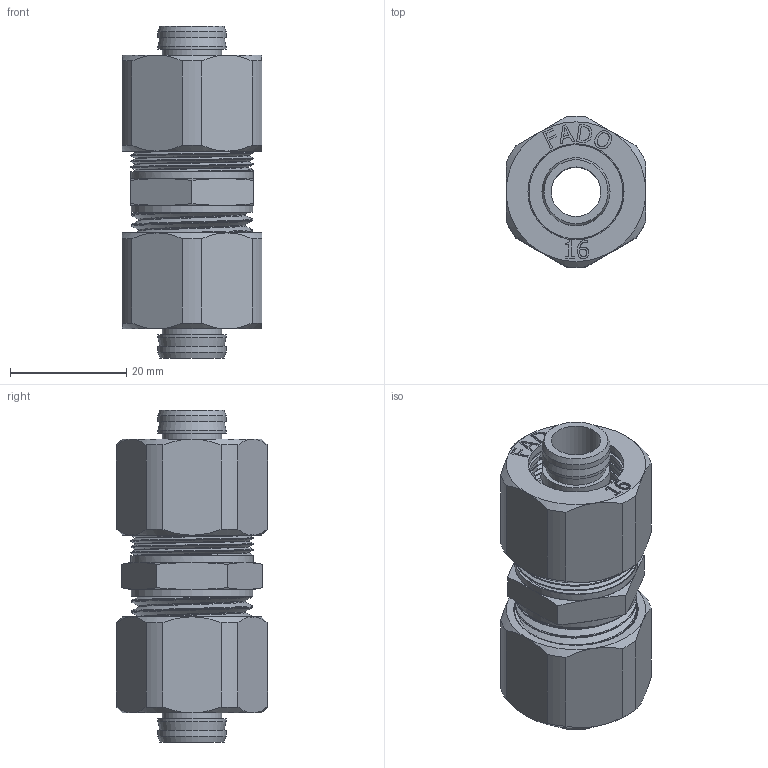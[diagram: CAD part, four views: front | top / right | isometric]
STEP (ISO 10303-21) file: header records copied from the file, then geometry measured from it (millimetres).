
FILE_DESCRIPTION(/* description */ (''),/* implementation_level */ '2;1');
FILE_NAME(/* name */ 'C:\Users\Doom\Desktop\Фадотех\Обжим\RFM21 16x0.5M 30.03.2020\RFM21 16x0.5M 30.03.2020.stp',/* time_stamp */ '2022-06-01T21:51:06+03:00',/* author */ ('Doom'),/* organization */ (''),/* preprocessor_version */ 'ST-DEVELOPER v18',/* originating_system */ 'Autodesk Inventor 2020',/* authorisation */ '');
FILE_SCHEMA (('AUTOMOTIVE_DESIGN { 1 0 10303 214 3 1 1 }'));
Length unit declared in the file: millimetre
Products named in the file (5): RFM21 16x0.5M 30.03.2020; RFM21 16x0.5M 30.03.2020_1; FADO MC Nut-16 15.02.2020; FADO MC Socket-16 15.02.2020; Olive 16 15.02.2020
Assembly tree (7 placements, depth 2):
  RFM21 16x0.5M 30.03.2020
    RFM21 16x0.5M 30.03.2020_1
    FADO MC Nut-16 15.02.2020  x2
    FADO MC Socket-16 15.02.2020  x2
    Olive 16 15.02.2020  x2
Bounding box: 24 x 25.98 x 57.04 mm (x, y, z)
Volume: 13490.3 mm3; surface area: 23385.8 mm2
Topology: 11 solids, 11 shells, 992 faces, 2705 edges, 1814 vertices
Faces by surface type: bspline 492, plane 291, cylinder 149, cone 60
Full cylindrical faces by diameter (mm): 8.5 x2, 10.2 x4, 11.7 x8, 12.6 x2, 14.7 x4, 15.5 x1, 16.5 x2, 18.26 x2, 19 x2, 19.5 x2, 19.517 x2, 19.867 x24, 20.95 x4, 21 x8, 21.35 x4
Entity records: 34183 total; most frequent: CARTESIAN_POINT 22298, ORIENTED_EDGE 2884, DIRECTION 1664, EDGE_CURVE 1442, VERTEX_POINT 968, EDGE_LOOP 586, B_SPLINE_CURVE_WITH_KNOTS 579, AXIS2_PLACEMENT_3D 562
